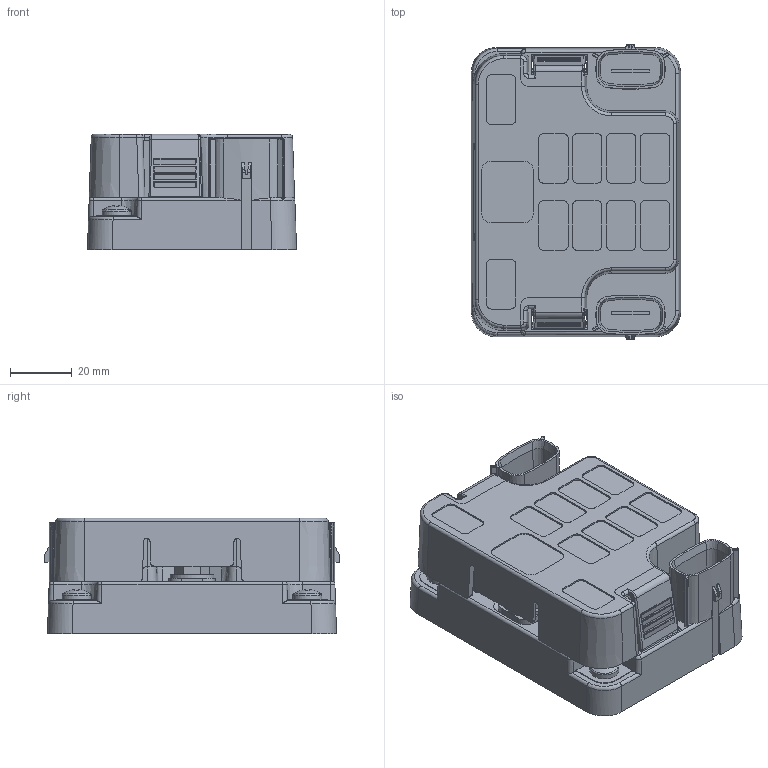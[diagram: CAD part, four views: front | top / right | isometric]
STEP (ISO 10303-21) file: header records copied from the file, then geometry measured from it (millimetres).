
FILE_DESCRIPTION(/* description */ ('STEP AP214'),/* implementation_level */ '2;1');
FILE_NAME(/* name */ '60a5586935529a0c12649418',/* time_stamp */ '2021-05-19T18:26:52+00:00',/* author */ (''),/* organization */ (''),/* preprocessor_version */ 'ST-DEVELOPER v18.1',/* originating_system */ ' ',/* authorisation */ ' ');
FILE_SCHEMA (('AUTOMOTIVE_DESIGN {1 0 10303 214 3 1 1}'));
Products named in the file (2): Part 2; Part 1
Bounding box: 68 x 95.89 x 37.5 mm (x, y, z)
Volume: 137680.8 mm3; surface area: 67267.3 mm2
Topology: 2 solids, 10 shells, 2263 faces, 5635 edges, 3377 vertices
Faces by surface type: plane 1057, cylinder 532, cone 245, bspline 194, torus 173, sphere 62
Full cylindrical faces by diameter (mm): 1.5 x8, 2.112 x2, 4.675 x2, 4.826 x2, 5.5 x2, 6 x2, 6.8 x1, 9.474 x2, 14.2 x1
Entity records: 68752 total; most frequent: CARTESIAN_POINT 16151, ORIENTED_EDGE 11032, DIRECTION 10881, EDGE_CURVE 5516, AXIS2_PLACEMENT_3D 3842, VERTEX_POINT 3350, LINE 3197, VECTOR 3197
